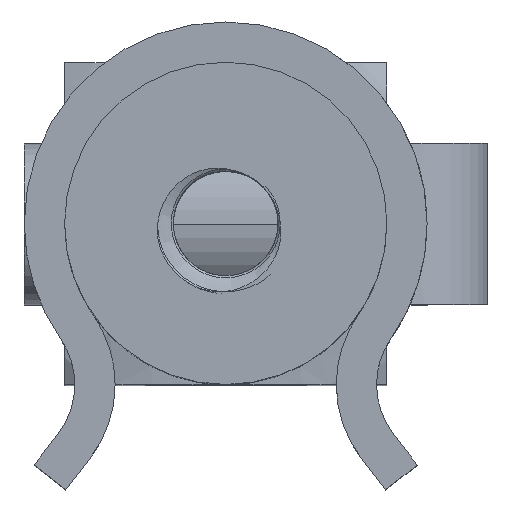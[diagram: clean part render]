
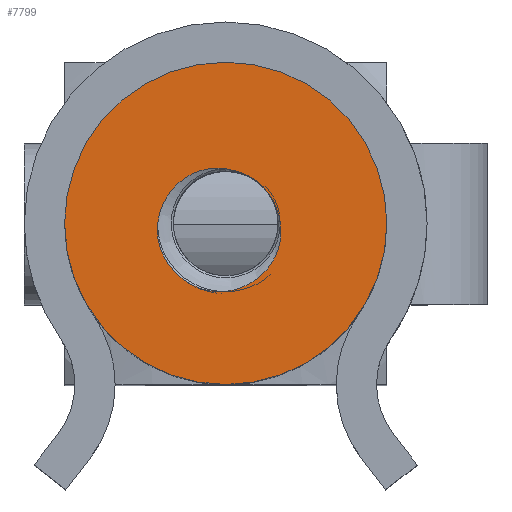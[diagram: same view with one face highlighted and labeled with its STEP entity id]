
A CAD part, top view. The second image highlights one B-rep face of the part: STEP entity #7799.
In plain terms, the highlighted planar face has unit normal (0, 0, 1).
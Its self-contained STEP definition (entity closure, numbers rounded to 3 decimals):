
#143=CARTESIAN_POINT('',(4.0,0.,14.5));
#144=VERTEX_POINT('',#143);
#160=CARTESIAN_POINT('',(-4.,0.,14.5));
#161=VERTEX_POINT('',#160);
#168=CARTESIAN_POINT('',(0.,0.,14.5));
#169=DIRECTION('',(0.0,0.0,-1.0));
#170=DIRECTION('',(1.0,0.0,0.0));
#171=AXIS2_PLACEMENT_3D('',#168,#169,#170);
#172=CIRCLE('',#171,4.0);
#173=EDGE_CURVE('',#161,#144,#172,.T.);
#305=CARTESIAN_POINT('',(0.927,0.911,14.5));
#306=VERTEX_POINT('',#305);
#329=CARTESIAN_POINT('',(0.919,0.919,14.5));
#330=VERTEX_POINT('',#329);
#331=CARTESIAN_POINT('',(0.,0.,14.5));
#332=DIRECTION('',(0.0,0.0,-1.0));
#333=DIRECTION('',(0.0,1.0,0.0));
#334=AXIS2_PLACEMENT_3D('',#331,#332,#333);
#335=CIRCLE('',#334,1.3);
#336=EDGE_CURVE('',#330,#306,#335,.T.);
#3352=CARTESIAN_POINT('',(0.027,1.351,14.5));
#3353=VERTEX_POINT('',#3352);
#3354=CARTESIAN_POINT('',(0.027,1.351,14.5));
#3355=CARTESIAN_POINT('',(0.127,1.334,14.5));
#3356=CARTESIAN_POINT('',(0.272,1.307,14.5));
#3357=CARTESIAN_POINT('',(0.638,1.157,14.5));
#3358=CARTESIAN_POINT('',(0.797,1.042,14.5));
#3359=CARTESIAN_POINT('',(0.919,0.919,14.5));
#3360=B_SPLINE_CURVE_WITH_KNOTS('',3,(#3354,#3355,#3356,#3357,#3358,#3359),.UNSPECIFIED.,.F.,.U.,(4,2,4),(0.0,0.303,0.678),.UNSPECIFIED.);
#3361=EDGE_CURVE('',#3353,#330,#3360,.T.);
#4249=CARTESIAN_POINT('',(-1.695,-0.026,14.5));
#4250=VERTEX_POINT('',#4249);
#4251=CARTESIAN_POINT('',(-1.695,-0.026,14.5));
#4252=CARTESIAN_POINT('',(-1.672,0.186,14.5));
#4253=CARTESIAN_POINT('',(-1.608,0.393,14.5));
#4254=CARTESIAN_POINT('',(-1.408,0.759,14.5));
#4255=CARTESIAN_POINT('',(-1.278,0.917,14.5));
#4256=CARTESIAN_POINT('',(-0.97,1.166,14.5));
#4257=CARTESIAN_POINT('',(-0.799,1.258,14.5));
#4258=CARTESIAN_POINT('',(-0.509,1.345,14.5));
#4259=CARTESIAN_POINT('',(-0.401,1.364,14.5));
#4260=CARTESIAN_POINT('',(-0.184,1.376,14.5));
#4261=CARTESIAN_POINT('',(-0.078,1.37,14.5));
#4262=CARTESIAN_POINT('',(0.027,1.351,14.5));
#4263=B_SPLINE_CURVE_WITH_KNOTS('',3,(#4251,#4252,#4253,#4254,#4255,#4256,#4257,#4258,#4259,#4260,#4261,#4262),.UNSPECIFIED.,.F.,.U.,(4,2,2,2,2,4),(0.0,0.642,1.252,1.831,2.163,2.484),.UNSPECIFIED.);
#4264=EDGE_CURVE('',#4250,#3353,#4263,.T.);
#5324=CARTESIAN_POINT('',(-0.042,-1.695,14.5));
#5325=VERTEX_POINT('',#5324);
#5326=CARTESIAN_POINT('',(-0.042,-1.695,14.5));
#5327=CARTESIAN_POINT('',(-0.168,-1.708,14.5));
#5328=CARTESIAN_POINT('',(-0.355,-1.702,14.5));
#5329=CARTESIAN_POINT('',(-0.769,-1.576,14.5));
#5330=CARTESIAN_POINT('',(-0.957,-1.474,14.5));
#5331=CARTESIAN_POINT('',(-1.282,-1.207,14.5));
#5332=CARTESIAN_POINT('',(-1.417,-1.043,14.5));
#5333=CARTESIAN_POINT('',(-1.597,-0.71,14.5));
#5334=CARTESIAN_POINT('',(-1.653,-0.548,14.5));
#5335=CARTESIAN_POINT('',(-1.706,-0.239,14.5));
#5336=CARTESIAN_POINT('',(-1.705,-0.116,14.5));
#5337=CARTESIAN_POINT('',(-1.695,-0.026,14.5));
#5338=B_SPLINE_CURVE_WITH_KNOTS('',3,(#5326,#5327,#5328,#5329,#5330,#5331,#5332,#5333,#5334,#5335,#5336,#5337),.UNSPECIFIED.,.F.,.U.,(4,2,2,2,2,4),(0.0,0.38,0.739,1.096,1.383,1.632),.UNSPECIFIED.);
#5339=EDGE_CURVE('',#5325,#4250,#5338,.T.);
#6250=CARTESIAN_POINT('',(1.352,0.015,14.5));
#6251=VERTEX_POINT('',#6250);
#6252=CARTESIAN_POINT('',(1.352,0.015,14.5));
#6253=CARTESIAN_POINT('',(1.382,-0.161,14.5));
#6254=CARTESIAN_POINT('',(1.376,-0.342,14.5));
#6255=CARTESIAN_POINT('',(1.295,-0.702,14.5));
#6256=CARTESIAN_POINT('',(1.217,-0.877,14.5));
#6257=CARTESIAN_POINT('',(0.993,-1.197,14.5));
#6258=CARTESIAN_POINT('',(0.847,-1.337,14.5));
#6259=CARTESIAN_POINT('',(0.572,-1.514,14.5));
#6260=CARTESIAN_POINT('',(0.458,-1.569,14.5));
#6261=CARTESIAN_POINT('',(0.216,-1.654,14.5));
#6262=CARTESIAN_POINT('',(0.088,-1.682,14.5));
#6263=CARTESIAN_POINT('',(-0.042,-1.695,14.5));
#6264=B_SPLINE_CURVE_WITH_KNOTS('',3,(#6252,#6253,#6254,#6255,#6256,#6257,#6258,#6259,#6260,#6261,#6262,#6263),.UNSPECIFIED.,.F.,.U.,(4,2,2,2,2,4),(0.0,0.537,1.105,1.705,2.083,2.472),.UNSPECIFIED.);
#6265=EDGE_CURVE('',#6251,#5325,#6264,.T.);
#7134=CARTESIAN_POINT('',(0.927,0.911,14.5));
#7135=CARTESIAN_POINT('',(1.054,0.782,14.5));
#7136=CARTESIAN_POINT('',(1.155,0.631,14.5));
#7137=CARTESIAN_POINT('',(1.305,0.284,14.5));
#7138=CARTESIAN_POINT('',(1.333,0.123,14.5));
#7139=CARTESIAN_POINT('',(1.352,0.015,14.5));
#7140=B_SPLINE_CURVE_WITH_KNOTS('',3,(#7134,#7135,#7136,#7137,#7138,#7139),.UNSPECIFIED.,.F.,.U.,(4,2,4),(0.0,0.543,1.131),.UNSPECIFIED.);
#7141=EDGE_CURVE('',#306,#6251,#7140,.T.);
#7765=CARTESIAN_POINT('',(0.,0.,14.5));
#7766=DIRECTION('',(0.0,0.0,-1.0));
#7767=DIRECTION('',(1.0,0.0,0.0));
#7768=AXIS2_PLACEMENT_3D('',#7765,#7766,#7767);
#7769=CIRCLE('',#7768,4.0);
#7770=EDGE_CURVE('',#144,#161,#7769,.T.);
#7782=CARTESIAN_POINT('',(0.364,0.,14.5));
#7783=DIRECTION('',(0.0,0.0,1.0));
#7784=DIRECTION('',(1.0,0.0,0.0));
#7785=AXIS2_PLACEMENT_3D('',#7782,#7783,#7784);
#7786=PLANE('',#7785);
#7787=ORIENTED_EDGE('',*,*,#7770,.F.);
#7788=ORIENTED_EDGE('',*,*,#173,.F.);
#7789=EDGE_LOOP('',(#7787,#7788));
#7790=FACE_OUTER_BOUND('',#7789,.T.);
#7791=ORIENTED_EDGE('',*,*,#3361,.T.);
#7792=ORIENTED_EDGE('',*,*,#336,.T.);
#7793=ORIENTED_EDGE('',*,*,#7141,.T.);
#7794=ORIENTED_EDGE('',*,*,#6265,.T.);
#7795=ORIENTED_EDGE('',*,*,#5339,.T.);
#7796=ORIENTED_EDGE('',*,*,#4264,.T.);
#7797=EDGE_LOOP('',(#7791,#7792,#7793,#7794,#7795,#7796));
#7798=FACE_BOUND('',#7797,.T.);
#7799=ADVANCED_FACE('',(#7790,#7798),#7786,.T.);
